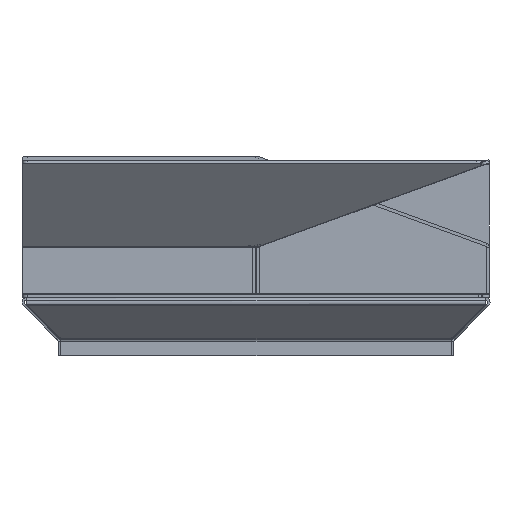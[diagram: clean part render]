
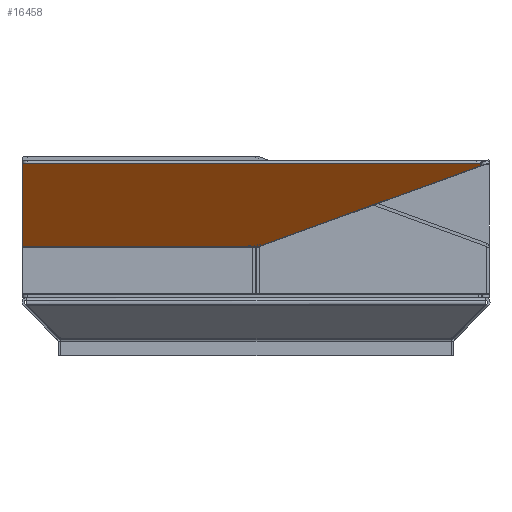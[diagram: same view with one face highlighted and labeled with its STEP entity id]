
A CAD part, front view. The second image highlights one B-rep face of the part: STEP entity #16458.
In plain terms, the highlighted planar face has unit normal (0, -0.342, -0.94).
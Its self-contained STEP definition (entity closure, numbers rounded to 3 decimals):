
#758 = LINE ( 'NONE', #22953, #26789 ) ;
#1910 = VERTEX_POINT ( 'NONE', #18402 ) ;
#1992 = VERTEX_POINT ( 'NONE', #29097 ) ;
#2057 = ORIENTED_EDGE ( 'NONE', *, *, #27134, .F. ) ;
#3044 = ORIENTED_EDGE ( 'NONE', *, *, #6946, .T. ) ;
#3202 = DIRECTION ( 'NONE',  ( -1., 0., 0. ) ) ;
#3224 = AXIS2_PLACEMENT_3D ( 'NONE', #19989, #4470, #22649 ) ;
#3236 = DIRECTION ( 'NONE',  ( 0., -0.342, -0.94 ) ) ;
#3838 = ORIENTED_EDGE ( 'NONE', *, *, #11848, .T. ) ;
#4470 = DIRECTION ( 'NONE',  ( 0., -0.342, -0.94 ) ) ;
#5425 = CARTESIAN_POINT ( 'NONE',  ( 249.442, 1803.754, 34.548 ) ) ;
#5782 = VERTEX_POINT ( 'NONE', #13569 ) ;
#6946 = EDGE_CURVE ( 'NONE', #5782, #1992, #18452, .T. ) ;
#7643 = EDGE_CURVE ( 'NONE', #1992, #1910, #10267, .T. ) ;
#8051 = CARTESIAN_POINT ( 'NONE',  ( 542.6, 1662.396, 85.998 ) ) ;
#8247 = CARTESIAN_POINT ( 'NONE',  ( 427.931, 1777.066, 44.262 ) ) ;
#8338 = VERTEX_POINT ( 'NONE', #8051 ) ;
#10256 = AXIS2_PLACEMENT_3D ( 'NONE', #12761, #33524, #17949 ) ;
#10267 = CIRCLE ( 'NONE', #3224, 3. ) ;
#11267 = ORIENTED_EDGE ( 'NONE', *, *, #23236, .F. ) ;
#11848 = EDGE_CURVE ( 'NONE', #1910, #27146, #758, .T. ) ;
#11889 = ORIENTED_EDGE ( 'NONE', *, *, #7643, .T. ) ;
#12188 = LINE ( 'NONE', #13161, #32073 ) ;
#12761 = CARTESIAN_POINT ( 'NONE',  ( 398.942, 1751.468, 53.578 ) ) ;
#13005 = LINE ( 'NONE', #8247, #17423 ) ;
#13161 = CARTESIAN_POINT ( 'NONE',  ( 548.442, 1803.754, 34.548 ) ) ;
#13569 = CARTESIAN_POINT ( 'NONE',  ( 540.414, 1657.646, 87.727 ) ) ;
#16458 = ADVANCED_FACE ( 'NONE', ( #21311 ), #22973, .T. ) ;
#17423 = VECTOR ( 'NONE', #29078, 1000. ) ;
#17949 = DIRECTION ( 'NONE',  ( 0., 0.94, -0.342 ) ) ;
#18370 = DIRECTION ( 'NONE',  ( -1., 0., 0. ) ) ;
#18402 = CARTESIAN_POINT ( 'NONE',  ( 249.442, 1660.465, 86.701 ) ) ;
#18452 = LINE ( 'NONE', #24004, #31455 ) ;
#18779 = CARTESIAN_POINT ( 'NONE',  ( 540.414, 1660.465, 86.701 ) ) ;
#19989 = CARTESIAN_POINT ( 'NONE',  ( 252.442, 1660.465, 86.701 ) ) ;
#20308 = DIRECTION ( 'NONE',  ( 0., 0.94, -0.342 ) ) ;
#21311 = FACE_OUTER_BOUND ( 'NONE', #28476, .T. ) ;
#21395 = DIRECTION ( 'NONE',  ( 0., 0.94, -0.342 ) ) ;
#22301 = ORIENTED_EDGE ( 'NONE', *, *, #29630, .T. ) ;
#22649 = DIRECTION ( 'NONE',  ( 0., 0.94, -0.342 ) ) ;
#22953 = CARTESIAN_POINT ( 'NONE',  ( 249.442, 1751.468, 53.578 ) ) ;
#22973 = PLANE ( 'NONE',  #10256 ) ;
#23236 = EDGE_CURVE ( 'NONE', #8338, #32820, #13005, .T. ) ;
#24004 = CARTESIAN_POINT ( 'NONE',  ( 398.942, 1657.646, 87.727 ) ) ;
#25876 = AXIS2_PLACEMENT_3D ( 'NONE', #18779, #3236, #21395 ) ;
#26789 = VECTOR ( 'NONE', #20308, 1000. ) ;
#27134 = EDGE_CURVE ( 'NONE', #32820, #27146, #12188, .T. ) ;
#27146 = VERTEX_POINT ( 'NONE', #5425 ) ;
#28476 = EDGE_LOOP ( 'NONE', ( #3044, #11889, #3838, #2057, #11267, #22301 ) ) ;
#29060 = CARTESIAN_POINT ( 'NONE',  ( 401.243, 1803.754, 34.548 ) ) ;
#29078 = DIRECTION ( 'NONE',  ( -0.685, 0.685, -0.249 ) ) ;
#29097 = CARTESIAN_POINT ( 'NONE',  ( 252.442, 1657.646, 87.727 ) ) ;
#29630 = EDGE_CURVE ( 'NONE', #8338, #5782, #30696, .T. ) ;
#30696 = CIRCLE ( 'NONE', #25876, 3. ) ;
#31455 = VECTOR ( 'NONE', #3202, 1000. ) ;
#32073 = VECTOR ( 'NONE', #18370, 1000. ) ;
#32820 = VERTEX_POINT ( 'NONE', #29060 ) ;
#33524 = DIRECTION ( 'NONE',  ( 0., -0.342, -0.94 ) ) ;
